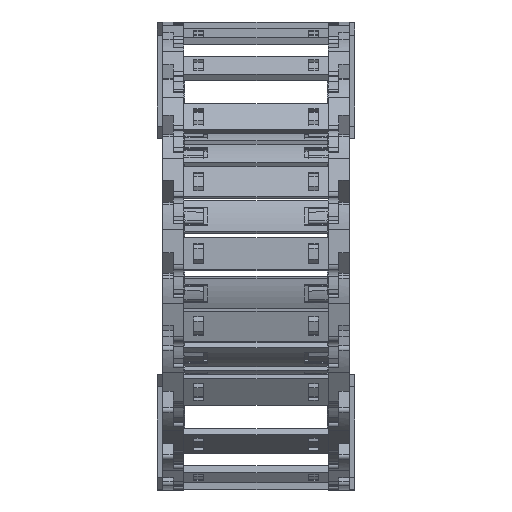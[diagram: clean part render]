
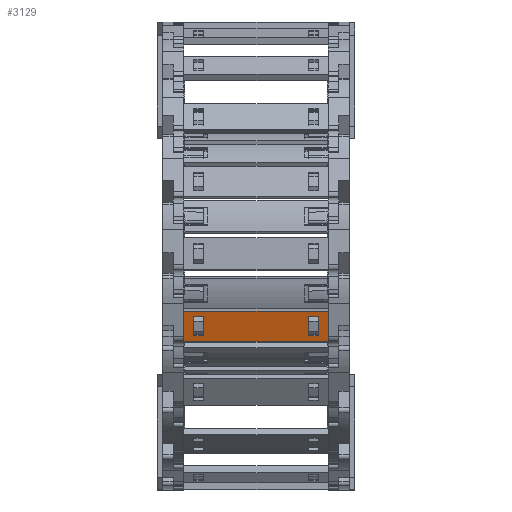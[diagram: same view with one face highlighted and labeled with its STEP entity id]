
A CAD part, top view. The second image highlights one B-rep face of the part: STEP entity #3129.
In plain terms, the highlighted planar face has unit normal (0, -0.302, 0.953) as drawn and (0, 0, -1) by its records, which use the part's own axes.
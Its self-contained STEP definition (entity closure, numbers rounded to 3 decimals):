
#2609=DIRECTION('',(-1.,0.,0.));
#2610=VECTOR('',#2609,18.);
#2611=CARTESIAN_POINT('',(9.,-55.75,0.));
#2612=LINE('',#2611,#2610);
#2647=DIRECTION('',(0.,1.,0.));
#2648=VECTOR('',#2647,5.56);
#2649=CARTESIAN_POINT('',(-5.55,14.2,0.));
#2650=LINE('',#2649,#2648);
#2651=DIRECTION('',(1.,0.,0.));
#2652=VECTOR('',#2651,11.1);
#2653=CARTESIAN_POINT('',(-5.55,19.76,0.));
#2654=LINE('',#2653,#2652);
#2655=DIRECTION('',(0.,-1.,0.));
#2656=VECTOR('',#2655,5.56);
#2657=CARTESIAN_POINT('',(5.55,19.76,0.));
#2658=LINE('',#2657,#2656);
#2659=DIRECTION('',(-1.,0.,0.));
#2660=VECTOR('',#2659,11.1);
#2661=CARTESIAN_POINT('',(5.55,14.2,0.));
#2662=LINE('',#2661,#2660);
#2667=DIRECTION('',(1.,0.,0.));
#2668=VECTOR('',#2667,18.);
#2669=CARTESIAN_POINT('',(-9.,25.25,0.));
#2670=LINE('',#2669,#2668);
#2701=DIRECTION('',(0.,1.,0.));
#2702=VECTOR('',#2701,81.);
#2703=CARTESIAN_POINT('',(-9.,-55.75,0.));
#2704=LINE('',#2703,#2702);
#2830=DIRECTION('',(0.,-1.,0.));
#2831=VECTOR('',#2830,81.);
#2832=CARTESIAN_POINT('',(9.,25.25,0.));
#2833=LINE('',#2832,#2831);
#2895=DIRECTION('',(0.,-1.,0.));
#2896=VECTOR('',#2895,5.56);
#2897=CARTESIAN_POINT('',(-5.55,-44.7,0.));
#2898=LINE('',#2897,#2896);
#2907=DIRECTION('',(0.,1.,0.));
#2908=VECTOR('',#2907,5.56);
#2909=CARTESIAN_POINT('',(5.55,-50.26,0.));
#2910=LINE('',#2909,#2908);
#2919=DIRECTION('',(1.,0.,0.));
#2920=VECTOR('',#2919,11.1);
#2921=CARTESIAN_POINT('',(-5.55,-50.26,0.));
#2922=LINE('',#2921,#2920);
#2931=DIRECTION('',(-1.,0.,0.));
#2932=VECTOR('',#2931,11.1);
#2933=CARTESIAN_POINT('',(5.55,-44.7,0.));
#2934=LINE('',#2933,#2932);
#2983=CARTESIAN_POINT('',(9.,-55.75,0.));
#2984=CARTESIAN_POINT('',(-9.,-55.75,0.));
#2985=VERTEX_POINT('',#2983);
#2986=VERTEX_POINT('',#2984);
#3007=CARTESIAN_POINT('',(-5.55,-44.7,0.));
#3008=CARTESIAN_POINT('',(-5.55,-50.26,0.));
#3009=VERTEX_POINT('',#3007);
#3010=VERTEX_POINT('',#3008);
#3011=CARTESIAN_POINT('',(5.55,-44.7,0.));
#3012=VERTEX_POINT('',#3011);
#3013=CARTESIAN_POINT('',(5.55,-50.26,0.));
#3014=VERTEX_POINT('',#3013);
#3039=CARTESIAN_POINT('',(-9.,25.25,0.));
#3040=CARTESIAN_POINT('',(9.,25.25,0.));
#3041=VERTEX_POINT('',#3039);
#3042=VERTEX_POINT('',#3040);
#3043=CARTESIAN_POINT('',(-5.55,14.2,0.));
#3044=CARTESIAN_POINT('',(-5.55,19.76,0.));
#3045=VERTEX_POINT('',#3043);
#3046=VERTEX_POINT('',#3044);
#3047=CARTESIAN_POINT('',(5.55,19.76,0.));
#3048=VERTEX_POINT('',#3047);
#3049=CARTESIAN_POINT('',(5.55,14.2,0.));
#3050=VERTEX_POINT('',#3049);
#3095=CARTESIAN_POINT('',(8.,-55.75,0.));
#3096=DIRECTION('',(0.,0.,-1.));
#3097=DIRECTION('',(-1.,0.,0.));
#3098=AXIS2_PLACEMENT_3D('',#3095,#3096,#3097);
#3099=PLANE('',#3098);
#3101=ORIENTED_EDGE('',*,*,#3100,.F.);
#3103=ORIENTED_EDGE('',*,*,#3102,.F.);
#3104=ORIENTED_EDGE('',*,*,#3068,.F.);
#3106=ORIENTED_EDGE('',*,*,#3105,.F.);
#3107=EDGE_LOOP('',(#3101,#3103,#3104,#3106));
#3108=FACE_OUTER_BOUND('',#3107,.F.);
#3110=ORIENTED_EDGE('',*,*,#3109,.T.);
#3112=ORIENTED_EDGE('',*,*,#3111,.T.);
#3114=ORIENTED_EDGE('',*,*,#3113,.T.);
#3116=ORIENTED_EDGE('',*,*,#3115,.T.);
#3117=EDGE_LOOP('',(#3110,#3112,#3114,#3116));
#3118=FACE_BOUND('',#3117,.F.);
#3120=ORIENTED_EDGE('',*,*,#3119,.F.);
#3122=ORIENTED_EDGE('',*,*,#3121,.F.);
#3124=ORIENTED_EDGE('',*,*,#3123,.F.);
#3126=ORIENTED_EDGE('',*,*,#3125,.F.);
#3127=EDGE_LOOP('',(#3120,#3122,#3124,#3126));
#3128=FACE_BOUND('',#3127,.F.);
#3129=ADVANCED_FACE('',(#3108,#3118,#3128),#3099,.T.);
#3068=EDGE_CURVE('',#2985,#2986,#2612,.T.);
#3100=EDGE_CURVE('',#3041,#3042,#2670,.T.);
#3102=EDGE_CURVE('',#2986,#3041,#2704,.T.);
#3105=EDGE_CURVE('',#3042,#2985,#2833,.T.);
#3109=EDGE_CURVE('',#3045,#3046,#2650,.T.);
#3111=EDGE_CURVE('',#3046,#3048,#2654,.T.);
#3113=EDGE_CURVE('',#3048,#3050,#2658,.T.);
#3115=EDGE_CURVE('',#3050,#3045,#2662,.T.);
#3119=EDGE_CURVE('',#3009,#3010,#2898,.T.);
#3121=EDGE_CURVE('',#3012,#3009,#2934,.T.);
#3123=EDGE_CURVE('',#3014,#3012,#2910,.T.);
#3125=EDGE_CURVE('',#3010,#3014,#2922,.T.);
